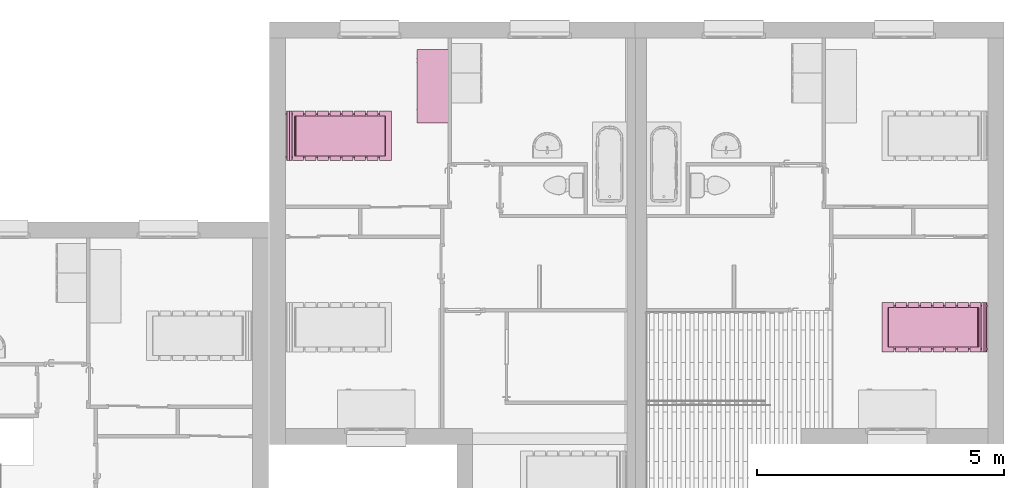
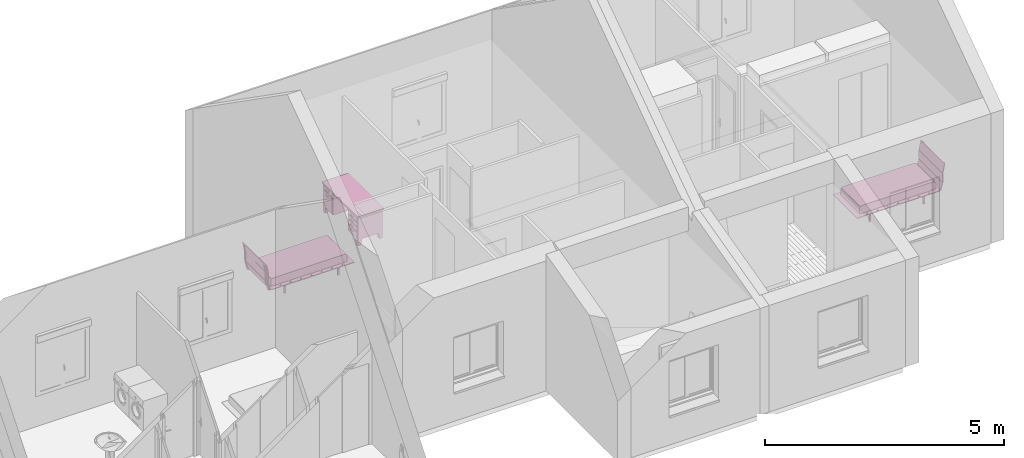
# One storey, part 49 of 50: 3 furnishings.
"""IFC2X3 building model written with IfcOpenShell, lengths in metres."""

from ifc_helpers import new_model, entity, si_unit, converted_unit, derived_unit, direction, frame, frame_2d, origin, origin_2d_with_axis, place, context, subcontext, project, spatial, polyline, circle_curve, parameter, trimmed, segment, composite_curve, rectangle, outline, extrude, faceted_brep, source, transform, mapped, material, material_list, type_object, type_shapes, element, save


model = new_model("IFC2X3")

# Units and contexts
model_context = context("Model", 3, precision=1e-05, world=origin(), true_north=direction((6.12303176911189e-17, 1.0)))
context_of_model = context(None, 3, precision=1e-05, world=origin(), true_north=direction((6.12303176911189e-17, 1.0)))
body_context = subcontext(model_context, "Body", "Model", "MODEL_VIEW")
ifc_project = project(units=[si_unit("LENGTHUNIT", "METRE"), si_unit("AREAUNIT", "SQUARE_METRE"), si_unit("VOLUMEUNIT", "CUBIC_METRE"), converted_unit("PLANEANGLEUNIT", "DEGREE", entity("IfcRatioMeasure", 0.0174532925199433), si_unit("PLANEANGLEUNIT", "RADIAN"), dimensions=[0, 0, 0, 0, 0, 0, 0]), si_unit("MASSUNIT", "GRAM", prefix="KILO"), si_unit("TIMEUNIT", "SECOND"), si_unit("FREQUENCYUNIT", "HERTZ"), si_unit("THERMODYNAMICTEMPERATUREUNIT", "DEGREE_CELSIUS"), derived_unit("THERMALTRANSMITTANCEUNIT", [(si_unit("MASSUNIT", "GRAM", prefix="KILO"), 1), (si_unit("THERMODYNAMICTEMPERATUREUNIT", "KELVIN"), -1), (si_unit("TIMEUNIT", "SECOND"), -3)]), derived_unit("VOLUMETRICFLOWRATEUNIT", [(si_unit("LENGTHUNIT", "METRE"), 3), (si_unit("TIMEUNIT", "SECOND"), -1)]), si_unit("ELECTRICCURRENTUNIT", "AMPERE"), si_unit("ELECTRICVOLTAGEUNIT", "VOLT"), si_unit("POWERUNIT", "WATT"), si_unit("FORCEUNIT", "NEWTON", prefix="KILO"), si_unit("ILLUMINANCEUNIT", "LUX"), si_unit("LUMINOUSFLUXUNIT", "LUMEN"), si_unit("LUMINOUSINTENSITYUNIT", "CANDELA"), si_unit("PRESSUREUNIT", "PASCAL")], contexts=[model_context, context_of_model])

# Site, building, storey
site_placement = place(None, origin())
site = spatial("IfcSite", under=ifc_project, at=site_placement, Name="Surface", CompositionType="ELEMENT")
building_placement = place(site_placement, origin())
building = spatial("IfcBuilding", under=site, at=building_placement, CompositionType="ELEMENT")
storey_placement = place(building_placement, frame((0.0, 0.0, 2.82)))
storey = spatial("IfcBuildingStorey", under=building, at=storey_placement, Name="ETAGE", CompositionType="ELEMENT", Elevation=2.82)

# Furnishing
ifc_material_1 = material(Name="Bois - Mélaminé ivoire")
ifc_material_2 = material(Name="Métal - Chrome")
ifc_material_3 = material(Name="Bois - Cerisier")
ifc_material_list_1 = material_list([ifc_material_1, ifc_material_2, ifc_material_3])
ifc_material_list_2 = material_list([ifc_material_1, ifc_material_2, ifc_material_3])
furniture_type_1 = type_object("IfcFurnitureType", Name="1525 mm x 600 mm", AssemblyPlace="NOTDEFINED", material=ifc_material_list_2)
shared_shape_1 = source(origin(), body_context, "Body", "Brep", [
    faceted_brep([(1.06265, 0.599999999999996, 0.704850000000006), (1.06265, 0.599999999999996, 0.603250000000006), (1.43095, 0.599999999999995, 0.603250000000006), (1.43095, 0.599999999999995, 0.704850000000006), (1.06265, 0.612699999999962, 0.704850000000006), (1.06265, 0.612699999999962, 0.603250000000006), (1.43095, 0.612699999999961, 0.603250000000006), (1.43095, 0.612699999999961, 0.704850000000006)], [[[0, 1, 2, 3]], [[1, 0, 4, 5]], [[2, 1, 5, 6]], [[3, 2, 6, 7]], [[0, 3, 7, 4]], [[4, 7, 6, 5]]]),
    faceted_brep([(1.43095, 0.612699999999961, 0.584200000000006), (1.43095, 0.612699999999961, 0.17105), (1.06265, 0.612699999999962, 0.17105), (1.06265, 0.612699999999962, 0.584200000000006), (1.06265, 0.599999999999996, 0.584200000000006), (1.43095, 0.599999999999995, 0.584200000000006), (1.06265, 0.599999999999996, 0.17105), (1.43095, 0.599999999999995, 0.17105)], [[[0, 1, 2, 3]], [[4, 5, 0, 3]], [[6, 4, 3, 2]], [[7, 6, 2, 1]], [[5, 7, 1, 0]], [[5, 4, 6, 7]]]),
    faceted_brep([(0.38735, 0.6, 0.70485), (0.01905, 0.6, 0.70485), (0.01905, 0.6, 0.60285), (0.38735, 0.6, 0.60285), (0.38735, 0.612700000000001, 0.70485), (0.01905, 0.612700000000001, 0.70485), (0.01905, 0.612700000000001, 0.60285), (0.38735, 0.612700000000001, 0.60285)], [[[0, 1, 2, 3]], [[1, 0, 4, 5]], [[2, 1, 5, 6]], [[3, 2, 6, 7]], [[0, 3, 7, 4]], [[4, 7, 6, 5]]]),
    faceted_brep([(0.01905, 0.612700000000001, 0.5838), (0.38735, 0.612700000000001, 0.5838), (0.38735, 0.612700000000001, 0.4822), (0.01905, 0.612700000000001, 0.4822), (0.01905, 0.6, 0.4822), (0.01905, 0.6, 0.5838), (0.38735, 0.6, 0.4822), (0.38735, 0.6, 0.5838)], [[[0, 1, 2, 3]], [[4, 5, 0, 3]], [[6, 4, 3, 2]], [[7, 6, 2, 1]], [[5, 7, 1, 0]], [[5, 4, 6, 7]]]),
    faceted_brep([(0.01905, 0.6, 0.17105), (0.01905, 0.6, 0.3425), (0.01905, 0.612700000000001, 0.3425), (0.01905, 0.612700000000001, 0.17105), (0.38735, 0.6, 0.17105), (0.38735, 0.612700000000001, 0.17105), (0.38735, 0.6, 0.3425), (0.38735, 0.612700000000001, 0.3425)], [[[0, 1, 2, 3]], [[4, 0, 3, 5]], [[6, 4, 5, 7]], [[1, 6, 7, 2]], [[2, 7, 5, 3]], [[1, 0, 4, 6]]]),
    faceted_brep([(0.01905, 0.6, 0.36155), (0.01905, 0.6, 0.46315), (0.01905, 0.612700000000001, 0.46315), (0.01905, 0.612700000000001, 0.36155), (0.38735, 0.6, 0.36155), (0.38735, 0.612700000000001, 0.36155), (0.38735, 0.6, 0.46315), (0.38735, 0.612700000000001, 0.46315)], [[[0, 1, 2, 3]], [[4, 0, 3, 5]], [[6, 4, 5, 7]], [[1, 6, 7, 2]], [[2, 7, 5, 3]], [[1, 0, 4, 6]]]),
    faceted_brep([(1.34839999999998, 0.6, 0.152), (1.34839999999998, 0.498399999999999, 0.152), (1.44999999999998, 0.498399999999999, 0.152), (1.44999999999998, 0.6, 0.152), (1.37379999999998, 0.6, 0.0), (1.44999999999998, 0.6, 0.0), (1.44999999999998, 0.5238, 0.0), (1.37379999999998, 0.5238, 0.0)], [[[0, 1, 2, 3]], [[4, 5, 6, 7]], [[4, 7, 1, 0]], [[7, 6, 2, 1]], [[6, 5, 3, 2]], [[5, 4, 0, 3]]]),
    faceted_brep([(1.3484, 0.0, 0.152), (1.45, 0.0, 0.152), (1.45, 0.1016, 0.152), (1.3484, 0.1016, 0.152), (1.3738, 0.0, 0.0), (1.3738, 0.0761999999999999, 0.0), (1.45, 0.0761999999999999, 0.0), (1.45, 0.0, 0.0)], [[[0, 1, 2, 3]], [[4, 5, 6, 7]], [[4, 7, 1, 0]], [[7, 6, 2, 1]], [[6, 5, 3, 2]], [[5, 4, 0, 3]]]),
    faceted_brep([(0.1016, 0.0, 0.152), (0.1016, 0.1016, 0.152), (0.0, 0.1016, 0.152), (0.0, 0.0, 0.152), (0.0762, 0.0, 0.0), (0.0, 0.0, 0.0), (0.0, 0.0761999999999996, 0.0), (0.0762, 0.0761999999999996, 0.0)], [[[0, 1, 2, 3]], [[4, 5, 6, 7]], [[4, 7, 1, 0]], [[7, 6, 2, 1]], [[6, 5, 3, 2]], [[5, 4, 0, 3]]]),
    faceted_brep([(0.1016, 0.600000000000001, 0.152), (0.0, 0.600000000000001, 0.152), (0.0, 0.498400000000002, 0.152), (0.1016, 0.498400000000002, 0.152), (0.0761999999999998, 0.600000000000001, 0.0), (0.0761999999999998, 0.523800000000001, 0.0), (0.0, 0.523800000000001, 0.0), (0.0, 0.600000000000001, 0.0)], [[[0, 1, 2, 3]], [[4, 5, 6, 7]], [[4, 7, 1, 0]], [[7, 6, 2, 1]], [[6, 5, 3, 2]], [[5, 4, 0, 3]]]),
    faceted_brep([(0.4064, 0.6, 0.723900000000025), (0.0, 0.6, 0.723900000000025), (0.0, 0.0, 0.723900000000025), (1.45, 0.0, 0.723900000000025), (1.45, 0.6, 0.723900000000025), (1.04360000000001, 0.6, 0.723900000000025), (1.04360000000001, 0.0508000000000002, 0.723900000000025), (0.4064, 0.0508000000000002, 0.723900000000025), (0.4064, 0.6, 0.152), (0.4064, 0.0508000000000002, 0.152), (1.04360000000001, 0.0508000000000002, 0.152), (1.04360000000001, 0.6, 0.152), (1.45, 0.6, 0.152), (1.45, 0.0, 0.152), (0.0, 0.0, 0.152), (0.0, 0.6, 0.152)], [[[0, 1, 2, 3, 4, 5, 6, 7]], [[8, 9, 10, 11, 12, 13, 14, 15]], [[1, 0, 8, 15]], [[2, 1, 15, 14]], [[3, 2, 14, 13]], [[4, 3, 13, 12]], [[5, 4, 12, 11]], [[6, 5, 11, 10]], [[7, 6, 10, 9]], [[0, 7, 9, 8]]]),
    faceted_brep([(1.46905000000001, 0.619049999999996, 0.761999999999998), (-0.0190499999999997, 0.619049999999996, 0.761999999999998), (-0.0190499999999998, -0.0190500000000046, 0.761999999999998), (1.46905000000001, -0.0190500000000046, 0.761999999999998), (1.46905000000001, 0.619049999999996, 0.723900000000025), (1.46905000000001, -0.0190500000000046, 0.723900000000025), (-0.0190499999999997, -0.0190500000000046, 0.723900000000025), (-0.0190499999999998, 0.619049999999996, 0.723900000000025)], [[[0, 1, 2, 3]], [[4, 5, 6, 7]], [[1, 0, 4, 7]], [[2, 1, 7, 6]], [[3, 2, 6, 5]], [[0, 3, 5, 4]]]),
    faceted_brep([(1.29124999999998, 0.612699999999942, 0.546100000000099), (1.29124999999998, 0.612699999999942, 0.533400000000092), (1.29759999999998, 0.612699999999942, 0.533400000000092), (1.29759999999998, 0.612699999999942, 0.546100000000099), (1.29124999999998, 0.631749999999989, 0.546100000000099), (1.29124999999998, 0.631749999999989, 0.533400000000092), (1.29759999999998, 0.638099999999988, 0.533400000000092), (1.29759999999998, 0.638099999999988, 0.546100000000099), (1.20234999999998, 0.631749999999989, 0.546100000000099), (1.20234999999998, 0.631749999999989, 0.533400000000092), (1.19599999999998, 0.638099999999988, 0.533400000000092), (1.19599999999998, 0.638099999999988, 0.546100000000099), (1.20234999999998, 0.612699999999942, 0.546100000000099), (1.20234999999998, 0.612699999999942, 0.533400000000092), (1.19599999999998, 0.612699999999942, 0.533400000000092), (1.19599999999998, 0.612699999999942, 0.546100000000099)], [[[0, 1, 2, 3]], [[1, 0, 4, 5]], [[2, 1, 5, 6]], [[3, 2, 6, 7]], [[0, 3, 7, 4]], [[5, 4, 8, 9]], [[6, 5, 9, 10]], [[7, 6, 10, 11]], [[4, 7, 11, 8]], [[9, 8, 12, 13]], [[10, 9, 13, 14]], [[11, 10, 14, 15]], [[8, 11, 15, 12]], [[12, 15, 14, 13]]]),
    faceted_brep([(1.29124999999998, 0.612699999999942, 0.654050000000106), (1.29124999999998, 0.612699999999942, 0.666750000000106), (1.29124999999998, 0.631749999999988, 0.666750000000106), (1.29124999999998, 0.631749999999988, 0.654050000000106), (1.29759999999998, 0.612699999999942, 0.654050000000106), (1.29759999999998, 0.638099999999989, 0.654050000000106), (1.29759999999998, 0.612699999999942, 0.666750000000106), (1.29759999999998, 0.638099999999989, 0.666750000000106), (1.20234999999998, 0.631749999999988, 0.666750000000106), (1.20234999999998, 0.631749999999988, 0.654050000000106), (1.19599999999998, 0.638099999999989, 0.654050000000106), (1.19599999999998, 0.638099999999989, 0.666750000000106), (1.20234999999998, 0.612699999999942, 0.666750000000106), (1.19599999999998, 0.612699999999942, 0.666750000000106), (1.19599999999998, 0.612699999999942, 0.654050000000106), (1.20234999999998, 0.612699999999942, 0.654050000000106)], [[[0, 1, 2, 3]], [[4, 0, 3, 5]], [[6, 4, 5, 7]], [[1, 6, 7, 2]], [[3, 2, 8, 9]], [[5, 3, 9, 10]], [[7, 5, 10, 11]], [[2, 7, 11, 8]], [[12, 13, 14, 15]], [[9, 8, 12, 15]], [[10, 9, 15, 14]], [[11, 10, 14, 13]], [[8, 11, 13, 12]], [[1, 0, 4, 6]]]),
    faceted_brep([(0.15875, 0.612699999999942, 0.3048), (0.1524, 0.612699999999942, 0.3048), (0.1524, 0.612699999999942, 0.2921), (0.15875, 0.612699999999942, 0.2921), (0.15875, 0.631749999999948, 0.3048), (0.1524, 0.638099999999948, 0.3048), (0.1524, 0.638099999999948, 0.2921), (0.15875, 0.631749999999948, 0.2921), (0.24765, 0.631749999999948, 0.3048), (0.254, 0.638099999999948, 0.3048), (0.254, 0.638099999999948, 0.2921), (0.24765, 0.631749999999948, 0.2921), (0.24765, 0.612699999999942, 0.3048), (0.254, 0.612699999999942, 0.3048), (0.254, 0.612699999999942, 0.2921), (0.24765, 0.612699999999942, 0.2921)], [[[0, 1, 2, 3]], [[1, 0, 4, 5]], [[2, 1, 5, 6]], [[3, 2, 6, 7]], [[0, 3, 7, 4]], [[5, 4, 8, 9]], [[6, 5, 9, 10]], [[7, 6, 10, 11]], [[4, 7, 11, 8]], [[9, 8, 12, 13]], [[10, 9, 13, 14]], [[11, 10, 14, 15]], [[8, 11, 15, 12]], [[12, 15, 14, 13]]]),
    faceted_brep([(0.1524, 0.612699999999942, 0.425450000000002), (0.15875, 0.612699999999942, 0.425450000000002), (0.15875, 0.631749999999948, 0.425450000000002), (0.1524, 0.638099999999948, 0.425450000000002), (0.1524, 0.612699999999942, 0.412750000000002), (0.1524, 0.638099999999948, 0.412750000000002), (0.15875, 0.612699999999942, 0.412750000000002), (0.15875, 0.631749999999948, 0.412750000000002), (0.24765, 0.631749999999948, 0.425450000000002), (0.254, 0.638099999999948, 0.425450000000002), (0.254, 0.638099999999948, 0.412750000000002), (0.24765, 0.631749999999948, 0.412750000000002), (0.24765, 0.612699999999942, 0.425450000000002), (0.254, 0.612699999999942, 0.425450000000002), (0.254, 0.612699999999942, 0.412750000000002), (0.24765, 0.612699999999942, 0.412750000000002)], [[[0, 1, 2, 3]], [[4, 0, 3, 5]], [[6, 4, 5, 7]], [[1, 6, 7, 2]], [[3, 2, 8, 9]], [[5, 3, 9, 10]], [[7, 5, 10, 11]], [[2, 7, 11, 8]], [[9, 8, 12, 13]], [[10, 9, 13, 14]], [[11, 10, 14, 15]], [[8, 11, 15, 12]], [[12, 15, 14, 13]], [[1, 0, 4, 6]]]),
    faceted_brep([(0.1524, 0.612699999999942, 0.5461), (0.15875, 0.612699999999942, 0.5461), (0.15875, 0.631749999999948, 0.5461), (0.1524, 0.638099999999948, 0.5461), (0.1524, 0.612699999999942, 0.5334), (0.1524, 0.638099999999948, 0.5334), (0.15875, 0.612699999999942, 0.5334), (0.15875, 0.631749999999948, 0.5334), (0.24765, 0.631749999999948, 0.5461), (0.254, 0.638099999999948, 0.5461), (0.254, 0.638099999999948, 0.5334), (0.24765, 0.631749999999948, 0.5334), (0.24765, 0.612699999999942, 0.5461), (0.254, 0.612699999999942, 0.5461), (0.254, 0.612699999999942, 0.5334), (0.24765, 0.612699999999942, 0.5334)], [[[0, 1, 2, 3]], [[4, 0, 3, 5]], [[6, 4, 5, 7]], [[1, 6, 7, 2]], [[3, 2, 8, 9]], [[5, 3, 9, 10]], [[7, 5, 10, 11]], [[2, 7, 11, 8]], [[9, 8, 12, 13]], [[10, 9, 13, 14]], [[11, 10, 14, 15]], [[8, 11, 15, 12]], [[12, 15, 14, 13]], [[1, 0, 4, 6]]]),
    faceted_brep([(0.1524, 0.612699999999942, 0.666750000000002), (0.15875, 0.612699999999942, 0.666750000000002), (0.15875, 0.631749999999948, 0.666750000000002), (0.1524, 0.638099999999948, 0.666750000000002), (0.1524, 0.612699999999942, 0.654050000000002), (0.1524, 0.638099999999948, 0.654050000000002), (0.15875, 0.612699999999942, 0.654050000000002), (0.15875, 0.631749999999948, 0.654050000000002), (0.24765, 0.631749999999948, 0.666750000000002), (0.254, 0.638099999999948, 0.666750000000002), (0.254, 0.638099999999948, 0.654050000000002), (0.24765, 0.631749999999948, 0.654050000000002), (0.24765, 0.612699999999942, 0.666750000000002), (0.24765, 0.612699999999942, 0.654050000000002), (0.254, 0.612699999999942, 0.654050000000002), (0.254, 0.612699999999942, 0.666750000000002)], [[[0, 1, 2, 3]], [[4, 0, 3, 5]], [[6, 4, 5, 7]], [[1, 6, 7, 2]], [[3, 2, 8, 9]], [[5, 3, 9, 10]], [[7, 5, 10, 11]], [[2, 7, 11, 8]], [[12, 13, 14, 15]], [[9, 8, 12, 15]], [[10, 9, 15, 14]], [[11, 10, 14, 13]], [[8, 11, 13, 12]], [[1, 0, 4, 6]]]),
])
type_shapes(furniture_type_1, [shared_shape_1])
furnishing_1_placement = place(storey_placement, frame((79.9089023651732, 90.4475239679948, 0.0199999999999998), z_axis=(0.0, 0.0, 1.0), x_axis=(0.0, 1.0, 0.0)))
element("IfcFurnishingElement", 1, at=furnishing_1_placement, inside=storey, type_object=furniture_type_1, material=ifc_material_list_1, Name="Bureau commun:1525 mm x 600 mm", ObjectType="1525 mm x 600 mm", context=body_context, shape_type="MappedRepresentation", body=[
    mapped(shared_shape_1, transform((0.0, 0.0, 0.0), scale=1.0)),
])

# Space
space_placement = place(storey_placement, origin())
space = spatial("IfcSpace", under=storey, at=space_placement, Name="473", CompositionType="ELEMENT", InteriorOrExteriorSpace="INTERNAL")

# Furnishings
ifc_material_4 = material(Name="Textile - Bleu pâle")
ifc_material_5 = material(Name="Bois - Teck")
ifc_material_6 = material(Name="Plastique - Noir")
ifc_material_list_3 = material_list([ifc_material_4, ifc_material_5, ifc_material_6])
ifc_material_list_4 = material_list([ifc_material_4, ifc_material_5, ifc_material_6])
furniture_type_2 = type_object("IfcFurnitureType", Name="1000 mm x 2000 mm 3", AssemblyPlace="NOTDEFINED", material=ifc_material_list_4)
shared_shape_2 = source(origin(), body_context, "Body", "SweptSolid", [
    extrude(outline(composite_curve([segment(polyline([(-0.755361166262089, -0.0846796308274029), (0.695178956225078, -0.0846796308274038)]), True, "CONTINUOUS"), segment(polyline([(0.695178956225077, -0.0846796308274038), (0.816394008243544, -0.078623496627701)]), True, "CONTINUOUS"), segment(polyline([(0.816394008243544, -0.078623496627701), (0.842657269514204, -0.0725673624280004)]), True, "CONTINUOUS"), segment(polyline([(0.842657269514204, -0.0725673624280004), (0.856799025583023, -0.0624738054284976)]), True, "CONTINUOUS"), segment(polyline([(0.856799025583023, -0.0624738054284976), (0.862859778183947, -0.0443054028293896)]), True, "CONTINUOUS"), segment(polyline([(0.862859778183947, -0.0443054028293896), (0.866900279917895, -0.0120060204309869)]), True, "CONTINUOUS"), segment(polyline([(0.866900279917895, -0.0120060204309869), (0.866900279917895, 0.0747985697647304)]), True, "CONTINUOUS"), segment(polyline([(0.866900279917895, 0.0747985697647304), (0.862859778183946, 0.105079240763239)]), True, "CONTINUOUS"), segment(polyline([(0.862859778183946, 0.105079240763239), (0.856799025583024, 0.113154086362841)]), True, "CONTINUOUS"), segment(polyline([(0.856799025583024, 0.113154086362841), (0.836596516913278, 0.117191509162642)]), True, "CONTINUOUS"), segment(polyline([(0.836596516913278, 0.117191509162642), (-0.953345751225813, 0.117191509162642)]), True, "CONTINUOUS"), segment(polyline([(-0.953345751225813, 0.117191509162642), (-0.969507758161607, 0.115172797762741)]), True, "CONTINUOUS"), segment(polyline([(-0.969507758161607, 0.115172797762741), (-0.971528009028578, 0.103060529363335)]), True, "CONTINUOUS"), segment(polyline([(-0.971528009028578, 0.103060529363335), (-0.971528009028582, -0.0160434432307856)]), True, "CONTINUOUS"), segment(trimmed(circle_curve(frame_2d((-0.76779044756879, -0.0160434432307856), x_axis=(-1.0, 0.0)), 0.203737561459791), [parameter(360.0)], [parameter(11.4298384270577)], True, "PARAMETER"), True, "CONTINUOUS"), segment(trimmed(circle_curve(frame_2d((-0.944467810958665, -0.0517636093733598), x_axis=(-1.0, 0.0)), 0.0234854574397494), [parameter(11.4298384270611)], [parameter(62.3518913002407)], True, "PARAMETER"), True, "CONTINUOUS"), segment(trimmed(circle_curve(frame_2d((-0.929629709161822, -0.0234388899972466), x_axis=(-1.0, 0.0)), 0.0554613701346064), [parameter(62.35189130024)], [parameter(84.2736549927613)], True, "PARAMETER"), True, "CONTINUOUS"), segment(trimmed(circle_curve(frame_2d((-0.809859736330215, 1.1709442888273), x_axis=(-1.0, 0.0)), 1.25583465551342), [parameter(84.2736549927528)], [parameter(86.5854437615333)], True, "PARAMETER"), True, "CONTINUOUS"), segment(polyline([(-0.884657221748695, -0.0826609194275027), (-0.755361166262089, -0.0846796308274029)]), True, "CONTINUOUS")], self_intersect=False)), frame((-0.4, 1.05656455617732, 0.367191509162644), z_axis=(1.0, 0.0, 0.0), x_axis=(0.0, -1.0, 0.0)), (0.0, 0.0, 1.0), 0.799999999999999),
    extrude(rectangle(XDim=1.0, YDim=0.249999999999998, at=origin_2d_with_axis()), frame((0.0, 2.02499620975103, 0.232311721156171), z_axis=(0.0, 0.0, 1.0), x_axis=(-1.0, 0.0, 0.0)), (0.0, 0.0, 1.0), 0.0176882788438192),
    extrude(outline(polyline([(-0.114793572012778, -0.00886960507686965), (0.115119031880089, -0.00886960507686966), (0.115119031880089, 0.00896042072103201), (-0.115444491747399, 0.00877878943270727), (-0.114793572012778, -0.00886960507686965)])), frame((-0.5, 0.051324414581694, 0.783374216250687), z_axis=(1.0, 0.0, 0.0), x_axis=(0.0, -0.182165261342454, 0.983267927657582)), (0.0, 0.0, 1.0), 0.999999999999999),
    extrude(rectangle(XDim=1.0, YDim=0.219999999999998, at=frame_2d((0.0, 1.38777878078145e-16), x_axis=(1.0, 0.0))), frame((0.0, 1.75999620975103, 0.232311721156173), z_axis=(0.0, 0.0, 1.0), x_axis=(-1.0, 0.0, 0.0)), (0.0, 0.0, 1.0), 0.0176882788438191),
    extrude(rectangle(XDim=1.0, YDim=0.219999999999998, at=frame_2d((0.0, -1.31838984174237e-16), x_axis=(1.0, 0.0))), frame((0.0, 1.50999620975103, 0.232311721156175), z_axis=(0.0, 0.0, 1.0), x_axis=(-1.0, 0.0, 0.0)), (0.0, 0.0, 1.0), 0.017688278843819),
    extrude(rectangle(XDim=1.0, YDim=0.219999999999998, at=frame_2d((0.0, -1.38777878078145e-16), x_axis=(1.0, 0.0))), frame((0.0, 1.25999620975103, 0.232311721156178), z_axis=(0.0, 0.0, 1.0), x_axis=(-1.0, 0.0, 0.0)), (0.0, 0.0, 1.0), 0.0176882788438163),
    extrude(rectangle(XDim=1.0, YDim=0.219999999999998, at=frame_2d((0.0, 6.93889390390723e-17), x_axis=(1.0, 0.0))), frame((0.0, 1.00999620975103, 0.232311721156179), z_axis=(0.0, 0.0, 1.0), x_axis=(-1.0, 0.0, 0.0)), (0.0, 0.0, 1.0), 0.0176882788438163),
    extrude(rectangle(XDim=1.0, YDim=0.22, at=origin_2d_with_axis()), frame((0.0, 0.759996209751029, 0.232311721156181), z_axis=(0.0, 0.0, 1.0), x_axis=(-1.0, 0.0, 0.0)), (0.0, 0.0, 1.0), 0.0176882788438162),
    extrude(rectangle(XDim=1.0, YDim=0.22, at=origin_2d_with_axis()), frame((0.0, 0.509996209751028, 0.232311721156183), z_axis=(0.0, 0.0, 1.0), x_axis=(-1.0, 0.0, 0.0)), (0.0, 0.0, 1.0), 0.0176882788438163),
    extrude(rectangle(XDim=1.0, YDim=0.22, at=origin_2d_with_axis()), frame((0.0, 0.259996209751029, 0.232311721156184), z_axis=(0.0, 0.0, 1.0), x_axis=(-1.0, 0.0, 0.0)), (0.0, 0.0, 1.0), 0.0176882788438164),
    extrude(rectangle(XDim=1.0, YDim=0.0183684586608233, at=origin_2d_with_axis()), frame((0.0, 0.0735868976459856, 0.443802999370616), z_axis=(0.0, 0.0, 1.0), x_axis=(-1.0, 0.0, 0.0)), (0.0, 0.0, 1.0), 0.214481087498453),
    extrude(outline(polyline([(-0.0941857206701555, -0.00889996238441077), (0.0936128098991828, -0.00889996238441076), (0.0943260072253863, 0.00869876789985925), (-0.0937530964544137, 0.00910115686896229), (-0.0941857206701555, -0.00889996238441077)])), frame((-0.5, 0.100341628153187, 0.340588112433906), z_axis=(1.0, 0.0, 0.0), x_axis=(0.0, -0.268983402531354, 0.96314481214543)), (0.0, 0.0, 1.0), 0.999999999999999),
    extrude(rectangle(XDim=0.03, YDim=0.0421792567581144, at=frame_2d((3.38271077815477e-17, -2.70616862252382e-16), x_axis=(1.0, 0.0))), frame((-0.434999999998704, 1.80439834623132, 0.0)), (0.0, 0.0, 1.0), 0.204645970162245),
    extrude(rectangle(XDim=0.03, YDim=0.0421792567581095, at=frame_2d((3.38271077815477e-17, -3.29597460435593e-17), x_axis=(1.0, 0.0))), frame((-0.434999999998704, 0.505017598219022, 0.0)), (0.0, 0.0, 1.0), 0.204645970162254),
    extrude(rectangle(XDim=0.03, YDim=0.0421792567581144, at=frame_2d((-3.38271077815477e-17, 0.0), x_axis=(1.0, 0.0))), frame((0.435000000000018, 1.80439834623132, 0.0), z_axis=(0.0, 0.0, 1.0), x_axis=(-1.0, 0.0, 0.0)), (0.0, 0.0, 1.0), 0.204645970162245),
    extrude(rectangle(XDim=0.03, YDim=0.0421792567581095, at=frame_2d((-3.38271077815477e-17, -3.29597460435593e-17), x_axis=(1.0, 0.0))), frame((0.435000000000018, 0.505017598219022, 0.0), z_axis=(0.0, 0.0, 1.0), x_axis=(-1.0, 0.0, 0.0)), (0.0, 0.0, 1.0), 0.204645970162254),
    extrude(outline(composite_curve([segment(polyline([(-0.499010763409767, 0.346366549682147), (-0.499569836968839, 0.324560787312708)]), True, "CONTINUOUS"), segment(polyline([(-0.499569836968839, 0.324560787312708), (-0.2642053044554, 0.324063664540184)]), True, "CONTINUOUS"), segment(polyline([(-0.2642053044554, 0.324063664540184), (-0.0414406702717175, 0.365029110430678)]), True, "CONTINUOUS"), segment(polyline([(-0.0414406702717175, 0.365029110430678), (0.170125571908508, 0.346291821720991)]), True, "CONTINUOUS"), segment(polyline([(0.170125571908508, 0.346291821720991), (0.528537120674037, -1.59768807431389)]), True, "CONTINUOUS"), segment(polyline([(0.528537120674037, -1.59768807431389), (0.549932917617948, -1.56608457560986)]), True, "CONTINUOUS"), segment(polyline([(0.549932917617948, -1.56608457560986), (0.19740578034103, 0.350911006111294)]), True, "CONTINUOUS"), segment(trimmed(circle_curve(frame_2d((0.17103903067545, 0.346062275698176), x_axis=(0.180862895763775, -0.983508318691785)), 0.0268088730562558), [parameter(90.0)], [parameter(167.367566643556)], True, "PARAMETER"), True, "CONTINUOUS"), segment(polyline([(0.172073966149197, 0.372851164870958), (-0.0455420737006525, 0.387331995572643)]), True, "CONTINUOUS"), segment(polyline([(-0.0455420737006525, 0.387331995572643), (-0.268306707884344, 0.346366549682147)]), True, "CONTINUOUS"), segment(polyline([(-0.268306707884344, 0.346366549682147), (-0.499010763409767, 0.346366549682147)]), True, "CONTINUOUS")], self_intersect=False)), frame((-0.449999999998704, 0.430906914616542, 0.462262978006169), z_axis=(-1.0, 0.0, 0.0), x_axis=(0.0, 0.180862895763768, -0.983508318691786)), (0.0, 0.0, -1.0), 0.0299999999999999),
    extrude(outline(composite_curve([segment(polyline([(-0.499010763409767, 0.346366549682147), (-0.49956983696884, 0.324560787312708)]), True, "CONTINUOUS"), segment(polyline([(-0.49956983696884, 0.324560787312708), (-0.2642053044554, 0.324063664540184)]), True, "CONTINUOUS"), segment(polyline([(-0.2642053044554, 0.324063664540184), (-0.0414406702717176, 0.365029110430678)]), True, "CONTINUOUS"), segment(polyline([(-0.0414406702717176, 0.365029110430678), (0.170125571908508, 0.346291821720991)]), True, "CONTINUOUS"), segment(polyline([(0.170125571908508, 0.346291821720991), (0.528537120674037, -1.59768807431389)]), True, "CONTINUOUS"), segment(polyline([(0.528537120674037, -1.59768807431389), (0.549932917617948, -1.56608457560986)]), True, "CONTINUOUS"), segment(polyline([(0.549932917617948, -1.56608457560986), (0.19740578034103, 0.350911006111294)]), True, "CONTINUOUS"), segment(trimmed(circle_curve(frame_2d((0.17103903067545, 0.346062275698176), x_axis=(0.180862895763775, -0.983508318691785)), 0.0268088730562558), [parameter(90.0)], [parameter(167.367566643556)], True, "PARAMETER"), True, "CONTINUOUS"), segment(polyline([(0.172073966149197, 0.372851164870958), (-0.0455420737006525, 0.387331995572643)]), True, "CONTINUOUS"), segment(polyline([(-0.0455420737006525, 0.387331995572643), (-0.268306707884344, 0.346366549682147)]), True, "CONTINUOUS"), segment(polyline([(-0.268306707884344, 0.346366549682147), (-0.499010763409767, 0.346366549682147)]), True, "CONTINUOUS")], self_intersect=False)), frame((0.420000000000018, 0.430906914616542, 0.462262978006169), z_axis=(-1.0, 0.0, 0.0), x_axis=(0.0, 0.180862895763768, -0.983508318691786)), (0.0, 0.0, -1.0), 0.0299999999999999),
])
type_shapes(furniture_type_2, [shared_shape_2])
furnishing_2_placement = place(space_placement, frame((90.8350487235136, 86.2975239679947, 0.0199999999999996), z_axis=(0.0, 0.0, 1.0), x_axis=(0.0, 1.0, 0.0)))
element("IfcFurnishingElement", 2, at=furnishing_2_placement, inside=space, type_object=furniture_type_2, material=ifc_material_list_3, Name="Lit à lattes:1000 mm x 2000 mm 3", ObjectType="1000 mm x 2000 mm 3", context=body_context, shape_type="MappedRepresentation", body=[
    mapped(shared_shape_2, transform((0.0, 0.0, 0.0), scale=1.0)),
])
ifc_material_list_5 = material_list([ifc_material_4, ifc_material_5, ifc_material_6])
furnishing_3_placement = place(storey_placement, frame((76.6227560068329, 90.1675239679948, 0.0199999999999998), z_axis=(0.0, 0.0, 1.0), x_axis=(0.0, -1.0, 0.0)))
element("IfcFurnishingElement", 3, at=furnishing_3_placement, inside=storey, type_object=furniture_type_2, material=ifc_material_list_5, Name="Lit à lattes:1000 mm x 2000 mm 3", ObjectType="1000 mm x 2000 mm 3", context=body_context, shape_type="MappedRepresentation", body=[
    mapped(shared_shape_2, transform((0.0, 0.0, 0.0), scale=1.0)),
])

save(model, "model.ifc")
